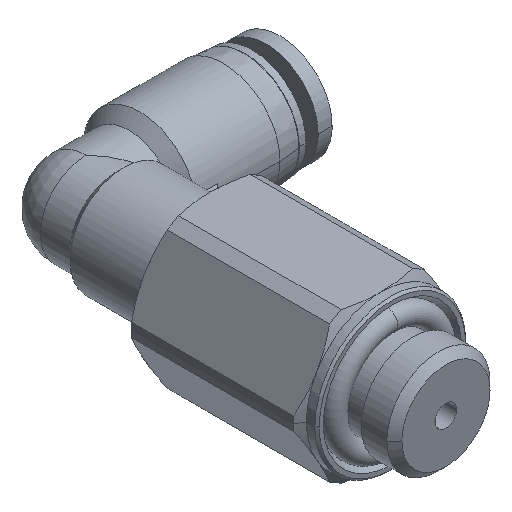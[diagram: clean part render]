
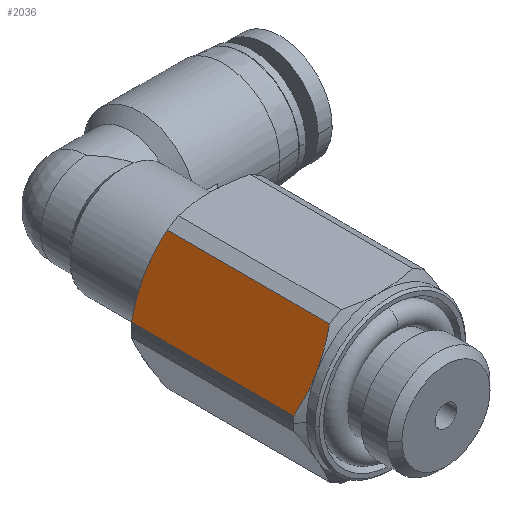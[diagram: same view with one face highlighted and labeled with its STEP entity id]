
A CAD part, isometric view. The second image highlights one B-rep face of the part: STEP entity #2036.
In plain terms, the highlighted planar face has unit normal (-0.866, 0, 0.5).
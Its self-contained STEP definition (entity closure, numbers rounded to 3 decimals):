
#4 = CARTESIAN_POINT ( 'NONE',  ( -4.971, -0.18, 5.39 ) ) ;
#59 = CARTESIAN_POINT ( 'NONE',  ( -7.013, -0.146, 1.853 ) ) ;
#97 = CARTESIAN_POINT ( 'NONE',  ( -7.437, -0.298, 1.119 ) ) ;
#127 = VERTEX_POINT ( 'NONE', #4126 ) ;
#145 = VERTEX_POINT ( 'NONE', #3803 ) ;
#322 = CARTESIAN_POINT ( 'NONE',  ( -5.422, -0.067, 4.608 ) ) ;
#341 = B_SPLINE_CURVE_WITH_KNOTS ( 'NONE', 3,
 ( #1698, #2301, #97, #3382, #656, #3018, #59, #356, #1373, #418, #2977, #1679 ),
 .UNSPECIFIED., .F., .F.,
 ( 4, 2, 2, 2, 2, 4 ),
 ( 0., 0.25, 0.375, 0.438, 0.5, 1. ),
 .UNSPECIFIED. ) ;
#347 = CARTESIAN_POINT ( 'NONE',  ( -4.399, -5.478, 6.38 ) ) ;
#356 = CARTESIAN_POINT ( 'NONE',  ( -6.943, -0.126, 1.975 ) ) ;
#366 = ORIENTED_EDGE ( 'NONE', *, *, #3291, .F. ) ;
#389 = CARTESIAN_POINT ( 'NONE',  ( -4.694, -15.713, 5.869 ) ) ;
#418 = CARTESIAN_POINT ( 'NONE',  ( -6.599, -0.036, 2.571 ) ) ;
#491 = FACE_OUTER_BOUND ( 'NONE', #2053, .T. ) ;
#586 = CARTESIAN_POINT ( 'NONE',  ( -7.43, -15.713, 1.13 ) ) ;
#600 = CARTESIAN_POINT ( 'NONE',  ( -5.591, -0.036, 4.316 ) ) ;
#656 = CARTESIAN_POINT ( 'NONE',  ( -7.153, -0.191, 1.61 ) ) ;
#694 = CARTESIAN_POINT ( 'NONE',  ( -4.979, -15.822, 5.377 ) ) ;
#714 = CARTESIAN_POINT ( 'NONE',  ( -5.796, -16., 3.961 ) ) ;
#792 = VERTEX_POINT ( 'NONE', #3979 ) ;
#916 = DIRECTION ( 'NONE',  ( 0., 1., 0. ) ) ;
#929 = ORIENTED_EDGE ( 'NONE', *, *, #2720, .T. ) ;
#1053 = B_SPLINE_CURVE_WITH_KNOTS ( 'NONE', 3,
 ( #3839, #586, #3232, #2883, #2904, #1523 ),
 .UNSPECIFIED., .F., .F.,
 ( 4, 2, 4 ),
 ( 0., 0.5, 1. ),
 .UNSPECIFIED. ) ;
#1171 = CARTESIAN_POINT ( 'NONE',  ( -4.399, -0.433, 6.38 ) ) ;
#1251 = PLANE ( 'NONE',  #1360 ) ;
#1271 = CARTESIAN_POINT ( 'NONE',  ( -5.388, -0.074, 4.667 ) ) ;
#1281 = CARTESIAN_POINT ( 'NONE',  ( -5.526, -15.964, 4.429 ) ) ;
#1292 = CARTESIAN_POINT ( 'NONE',  ( -5.927, 0., 3.735 ) ) ;
#1344 = ORIENTED_EDGE ( 'NONE', *, *, #2566, .F. ) ;
#1360 = AXIS2_PLACEMENT_3D ( 'NONE', #2575, #3897, #916 ) ;
#1373 = CARTESIAN_POINT ( 'NONE',  ( -6.906, -0.116, 2.038 ) ) ;
#1523 = CARTESIAN_POINT ( 'NONE',  ( -6.062, -16., 3.5 ) ) ;
#1546 = EDGE_CURVE ( 'NONE', #127, #3016, #3028, .T. ) ;
#1603 = CARTESIAN_POINT ( 'NONE',  ( -6.062, 0., 3.5 ) ) ;
#1679 = CARTESIAN_POINT ( 'NONE',  ( -6.062, 0., 3.5 ) ) ;
#1697 = ORIENTED_EDGE ( 'NONE', *, *, #1546, .T. ) ;
#1698 = CARTESIAN_POINT ( 'NONE',  ( -7.725, -0.433, 0.62 ) ) ;
#1911 = EDGE_CURVE ( 'NONE', #2709, #792, #4170, .T. ) ;
#2000 = CARTESIAN_POINT ( 'NONE',  ( -5.523, -0.047, 4.433 ) ) ;
#2036 = ADVANCED_FACE ( 'NONE', ( #491 ), #1251, .T. ) ;
#2053 = EDGE_LOOP ( 'NONE', ( #1344, #366, #2271, #929, #1697, #4158 ) ) ;
#2090 = VERTEX_POINT ( 'NONE', #1171 ) ;
#2239 = EDGE_CURVE ( 'NONE', #2090, #3016, #3490, .T. ) ;
#2271 = ORIENTED_EDGE ( 'NONE', *, *, #1911, .T. ) ;
#2287 = CARTESIAN_POINT ( 'NONE',  ( -5.287, -0.098, 4.842 ) ) ;
#2301 = CARTESIAN_POINT ( 'NONE',  ( -7.58, -0.361, 0.872 ) ) ;
#2309 = CARTESIAN_POINT ( 'NONE',  ( -4.399, -0.433, 6.38 ) ) ;
#2354 = CARTESIAN_POINT ( 'NONE',  ( -4.399, -15.567, 6.38 ) ) ;
#2438 = CARTESIAN_POINT ( 'NONE',  ( -7.725, -10.522, 0.62 ) ) ;
#2566 = EDGE_CURVE ( 'NONE', #145, #2090, #3031, .T. ) ;
#2575 = CARTESIAN_POINT ( 'NONE',  ( -8.083, 0., 0. ) ) ;
#2682 = CARTESIAN_POINT ( 'NONE',  ( -4.399, -10.522, 6.38 ) ) ;
#2709 = VERTEX_POINT ( 'NONE', #3275 ) ;
#2720 = EDGE_CURVE ( 'NONE', #792, #127, #1053, .T. ) ;
#2883 = CARTESIAN_POINT ( 'NONE',  ( -6.599, -15.964, 2.571 ) ) ;
#2904 = CARTESIAN_POINT ( 'NONE',  ( -6.329, -16., 3.038 ) ) ;
#2915 = CARTESIAN_POINT ( 'NONE',  ( -4.69, -0.289, 5.876 ) ) ;
#2977 = CARTESIAN_POINT ( 'NONE',  ( -6.333, 0., 3.03 ) ) ;
#2993 = CARTESIAN_POINT ( 'NONE',  ( -6.062, -16., 3.5 ) ) ;
#3002 = CARTESIAN_POINT ( 'NONE',  ( -4.399, -15.567, 6.38 ) ) ;
#3016 = VERTEX_POINT ( 'NONE', #3002 ) ;
#3018 = CARTESIAN_POINT ( 'NONE',  ( -7.048, -0.157, 1.793 ) ) ;
#3028 = B_SPLINE_CURVE_WITH_KNOTS ( 'NONE', 3,
 ( #2993, #714, #1281, #694, #389, #3687 ),
 .UNSPECIFIED., .F., .F.,
 ( 4, 2, 4 ),
 ( 0., 0.5, 1. ),
 .UNSPECIFIED. ) ;
#3031 = B_SPLINE_CURVE_WITH_KNOTS ( 'NONE', 3,
 ( #1603, #1292, #3659, #600, #2000, #322, #1271, #3945, #2287, #4, #2915, #2309 ),
 .UNSPECIFIED., .F., .F.,
 ( 4, 2, 2, 2, 2, 4 ),
 ( 0., 0.25, 0.375, 0.437, 0.5, 1. ),
 .UNSPECIFIED. ) ;
#3232 = CARTESIAN_POINT ( 'NONE',  ( -7.146, -15.822, 1.623 ) ) ;
#3275 = CARTESIAN_POINT ( 'NONE',  ( -7.725, -0.433, 0.62 ) ) ;
#3291 = EDGE_CURVE ( 'NONE', #2709, #145, #341, .T. ) ;
#3314 = CARTESIAN_POINT ( 'NONE',  ( -4.399, -0.433, 6.38 ) ) ;
#3382 = CARTESIAN_POINT ( 'NONE',  ( -7.224, -0.216, 1.487 ) ) ;
#3490 = B_SPLINE_CURVE_WITH_KNOTS ( 'NONE', 3,
 ( #3314, #347, #2682, #2354 ),
 .UNSPECIFIED., .F., .F.,
 ( 4, 4 ),
 ( 0., 1. ),
 .UNSPECIFIED. ) ;
#3659 = CARTESIAN_POINT ( 'NONE',  ( -5.792, -0.009, 3.967 ) ) ;
#3687 = CARTESIAN_POINT ( 'NONE',  ( -4.399, -15.567, 6.38 ) ) ;
#3702 = CARTESIAN_POINT ( 'NONE',  ( -7.725, -0.433, 0.62 ) ) ;
#3803 = CARTESIAN_POINT ( 'NONE',  ( -6.062, 0., 3.5 ) ) ;
#3839 = CARTESIAN_POINT ( 'NONE',  ( -7.725, -15.567, 0.62 ) ) ;
#3897 = DIRECTION ( 'NONE',  ( -0.866, 0., 0.5 ) ) ;
#3945 = CARTESIAN_POINT ( 'NONE',  ( -5.32, -0.09, 4.785 ) ) ;
#3979 = CARTESIAN_POINT ( 'NONE',  ( -7.725, -15.567, 0.62 ) ) ;
#4052 = CARTESIAN_POINT ( 'NONE',  ( -7.725, -15.567, 0.62 ) ) ;
#4110 = CARTESIAN_POINT ( 'NONE',  ( -7.725, -5.478, 0.62 ) ) ;
#4126 = CARTESIAN_POINT ( 'NONE',  ( -6.062, -16., 3.5 ) ) ;
#4158 = ORIENTED_EDGE ( 'NONE', *, *, #2239, .F. ) ;
#4170 = B_SPLINE_CURVE_WITH_KNOTS ( 'NONE', 3,
 ( #3702, #4110, #2438, #4052 ),
 .UNSPECIFIED., .F., .F.,
 ( 4, 4 ),
 ( 0., 1. ),
 .UNSPECIFIED. ) ;
